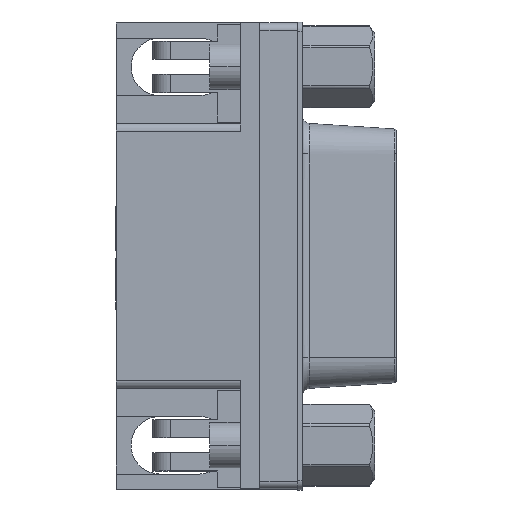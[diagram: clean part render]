
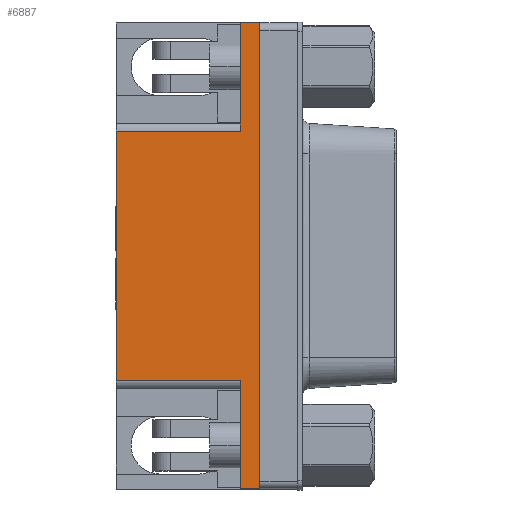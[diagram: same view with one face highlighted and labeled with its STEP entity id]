
A CAD part, top view. The second image highlights one B-rep face of the part: STEP entity #6887.
In plain terms, the highlighted planar face has unit normal (0, 0, 1).
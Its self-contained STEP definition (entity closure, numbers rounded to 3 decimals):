
#2881 = VERTEX_POINT('',#2882);
#2882 = CARTESIAN_POINT('',(-2.25,-8.25,
    10.262));
#2889 = EDGE_CURVE('',#2881,#2890,#2892,.T.);
#2890 = VERTEX_POINT('',#2891);
#2891 = CARTESIAN_POINT('',(-2.25,8.25,
    10.262));
#2892 = LINE('',#2893,#2894);
#2893 = CARTESIAN_POINT('',(-2.25,-15.4,
    10.262));
#2894 = VECTOR('',#2895,1.);
#2895 = DIRECTION('',(0.,1.,0.));
#6541 = VERTEX_POINT('',#6542);
#6542 = CARTESIAN_POINT('',(7.25,15.4,
    10.262));
#6589 = VERTEX_POINT('',#6590);
#6590 = CARTESIAN_POINT('',(5.95,15.4,
    10.262));
#6596 = EDGE_CURVE('',#6589,#6541,#6597,.T.);
#6597 = LINE('',#6598,#6599);
#6598 = CARTESIAN_POINT('',(-2.25,15.4,
    10.262));
#6599 = VECTOR('',#6600,1.);
#6600 = DIRECTION('',(1.,0.,0.));
#6629 = VERTEX_POINT('',#6630);
#6630 = CARTESIAN_POINT('',(7.25,-15.4,
    10.262));
#6636 = EDGE_CURVE('',#6637,#6629,#6639,.T.);
#6637 = VERTEX_POINT('',#6638);
#6638 = CARTESIAN_POINT('',(5.95,-15.4,
    10.262));
#6639 = LINE('',#6640,#6641);
#6640 = CARTESIAN_POINT('',(-2.25,-15.4,
    10.262));
#6641 = VECTOR('',#6642,1.);
#6642 = DIRECTION('',(1.,0.,0.));
#6869 = EDGE_CURVE('',#6629,#6541,#6870,.T.);
#6870 = LINE('',#6871,#6872);
#6871 = CARTESIAN_POINT('',(7.25,-15.4,
    10.262));
#6872 = VECTOR('',#6873,1.);
#6873 = DIRECTION('',(0.,1.,0.));
#6887 = ADVANCED_FACE('',(#6888),#6922,.T.);
#6888 = FACE_BOUND('',#6889,.T.);
#6889 = EDGE_LOOP('',(#6890,#6891,#6899,#6905,#6906,#6907,#6908,#6916));
#6890 = ORIENTED_EDGE('',*,*,#2889,.F.);
#6891 = ORIENTED_EDGE('',*,*,#6892,.T.);
#6892 = EDGE_CURVE('',#2881,#6893,#6895,.T.);
#6893 = VERTEX_POINT('',#6894);
#6894 = CARTESIAN_POINT('',(5.95,-8.25,
    10.262));
#6895 = LINE('',#6896,#6897);
#6896 = CARTESIAN_POINT('',(5.95,-8.25,
    10.262));
#6897 = VECTOR('',#6898,1.);
#6898 = DIRECTION('',(1.,0.,0.));
#6899 = ORIENTED_EDGE('',*,*,#6900,.F.);
#6900 = EDGE_CURVE('',#6637,#6893,#6901,.T.);
#6901 = LINE('',#6902,#6903);
#6902 = CARTESIAN_POINT('',(5.95,-15.4,
    10.262));
#6903 = VECTOR('',#6904,1.);
#6904 = DIRECTION('',(0.,1.,0.));
#6905 = ORIENTED_EDGE('',*,*,#6636,.T.);
#6906 = ORIENTED_EDGE('',*,*,#6869,.T.);
#6907 = ORIENTED_EDGE('',*,*,#6596,.F.);
#6908 = ORIENTED_EDGE('',*,*,#6909,.F.);
#6909 = EDGE_CURVE('',#6910,#6589,#6912,.T.);
#6910 = VERTEX_POINT('',#6911);
#6911 = CARTESIAN_POINT('',(5.95,8.25,
    10.262));
#6912 = LINE('',#6913,#6914);
#6913 = CARTESIAN_POINT('',(5.95,15.4,
    10.262));
#6914 = VECTOR('',#6915,1.);
#6915 = DIRECTION('',(0.,1.,0.));
#6916 = ORIENTED_EDGE('',*,*,#6917,.T.);
#6917 = EDGE_CURVE('',#6910,#2890,#6918,.T.);
#6918 = LINE('',#6919,#6920);
#6919 = CARTESIAN_POINT('',(-2.25,8.25,
    10.262));
#6920 = VECTOR('',#6921,1.);
#6921 = DIRECTION('',(-1.,0.,0.));
#6922 = PLANE('',#6923);
#6923 = AXIS2_PLACEMENT_3D('',#6924,#6925,#6926);
#6924 = CARTESIAN_POINT('',(-0.997,0.,
    10.262));
#6925 = DIRECTION('',(0.,0.,1.));
#6926 = DIRECTION('',(0.,1.,-0.));
